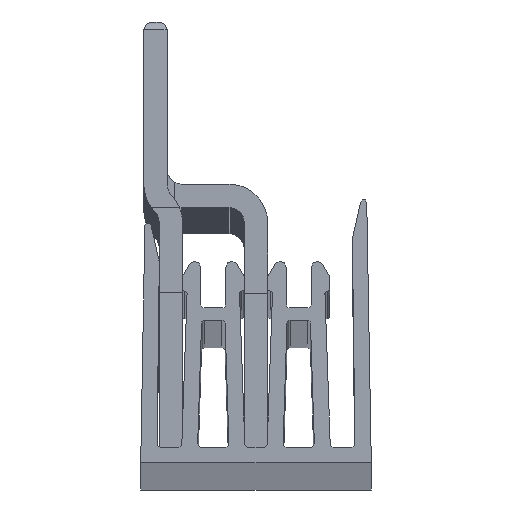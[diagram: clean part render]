
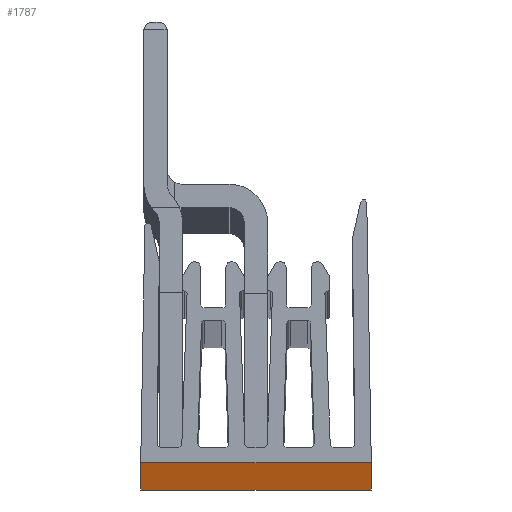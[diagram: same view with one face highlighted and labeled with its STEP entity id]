
A CAD part, top view. The second image highlights one B-rep face of the part: STEP entity #1787.
In plain terms, the highlighted planar face has unit normal (0, -1, 0).
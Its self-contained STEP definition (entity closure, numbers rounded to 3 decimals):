
#1486 = EDGE_CURVE ( 'NONE', #1489, #1565, #51017, .T. ) ;
#1489 = VERTEX_POINT ( 'NONE', #51009 ) ;
#1565 = VERTEX_POINT ( 'NONE', #22553 ) ;
#1706 = EDGE_CURVE ( 'NONE', #1489, #1893, #23423, .T. ) ;
#1707 = ORIENTED_EDGE ( 'NONE', *, *, #1486, .T. ) ;
#1741 = EDGE_LOOP ( 'NONE', ( #1860, #1831, #1870, #1707 ) ) ;
#1787 = ADVANCED_FACE ( 'NONE', ( #24481 ), #24558, .F. ) ;
#1831 = ORIENTED_EDGE ( 'NONE', *, *, #1832, .F. ) ;
#1832 = EDGE_CURVE ( 'NONE', #1893, #1856, #25302, .T. ) ;
#1856 = VERTEX_POINT ( 'NONE', #25321 ) ;
#1860 = ORIENTED_EDGE ( 'NONE', *, *, #1862, .T. ) ;
#1862 = EDGE_CURVE ( 'NONE', #1565, #1856, #25358, .T. ) ;
#1870 = ORIENTED_EDGE ( 'NONE', *, *, #1706, .F. ) ;
#1893 = VERTEX_POINT ( 'NONE', #25484 ) ;
#22553 = CARTESIAN_POINT ( 'NONE',  ( -7.45, 0., -508. ) ) ;
#23423 = LINE ( 'NONE', #23532, #23530 ) ;
#23529 = DIRECTION ( 'NONE',  ( 1., 0., 0. ) ) ;
#23530 = VECTOR ( 'NONE', #23529, 1000. ) ;
#23532 = CARTESIAN_POINT ( 'NONE',  ( 0., 0., 508. ) ) ;
#24481 = FACE_OUTER_BOUND ( 'NONE', #1741, .T. ) ;
#24549 = DIRECTION ( 'NONE',  ( 0., 0., 1. ) ) ;
#24550 = DIRECTION ( 'NONE',  ( 0., 1., 0. ) ) ;
#24552 = CARTESIAN_POINT ( 'NONE',  ( 0., 0., 508. ) ) ;
#24554 = AXIS2_PLACEMENT_3D ( 'NONE', #24552, #24550, #24549 ) ;
#24558 = PLANE ( 'NONE',  #24554 ) ;
#25299 = DIRECTION ( 'NONE',  ( 0., 0., -1. ) ) ;
#25300 = VECTOR ( 'NONE', #25299, 1000. ) ;
#25301 = CARTESIAN_POINT ( 'NONE',  ( 7.45, 0., 508. ) ) ;
#25302 = LINE ( 'NONE', #25301, #25300 ) ;
#25321 = CARTESIAN_POINT ( 'NONE',  ( 7.45, 0., -508. ) ) ;
#25352 = DIRECTION ( 'NONE',  ( 1., 0., 0. ) ) ;
#25353 = VECTOR ( 'NONE', #25352, 1000. ) ;
#25356 = CARTESIAN_POINT ( 'NONE',  ( 0., 0., -508. ) ) ;
#25358 = LINE ( 'NONE', #25356, #25353 ) ;
#25484 = CARTESIAN_POINT ( 'NONE',  ( 7.45, 0., 508. ) ) ;
#51009 = CARTESIAN_POINT ( 'NONE',  ( -7.45, 0., 508. ) ) ;
#51014 = DIRECTION ( 'NONE',  ( 0., 0., -1. ) ) ;
#51015 = VECTOR ( 'NONE', #51014, 1000. ) ;
#51016 = CARTESIAN_POINT ( 'NONE',  ( -7.45, 0., 508. ) ) ;
#51017 = LINE ( 'NONE', #51016, #51015 ) ;
